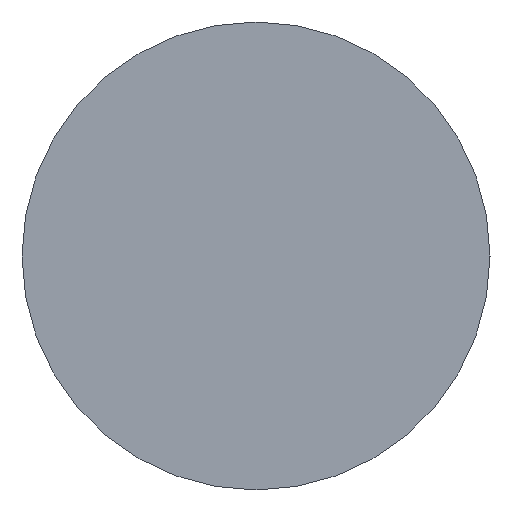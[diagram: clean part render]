
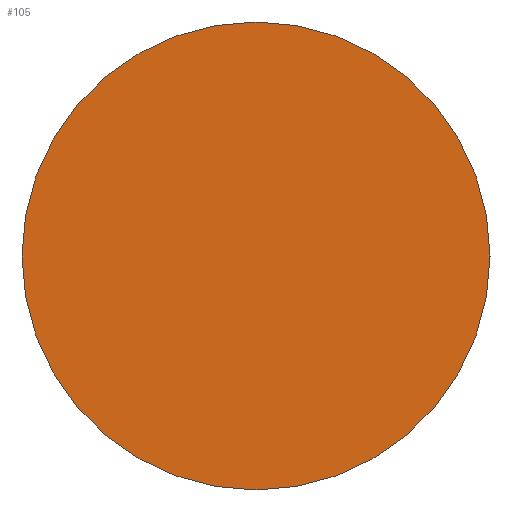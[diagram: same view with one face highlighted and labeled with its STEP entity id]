
A CAD part, left-side view. The second image highlights one B-rep face of the part: STEP entity #105.
In plain terms, the highlighted planar face has unit normal (-1, 0, 0).
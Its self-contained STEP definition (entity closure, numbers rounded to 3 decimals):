
#21 = EDGE_CURVE('',#22,#22,#24,.T.);
#22 = VERTEX_POINT('',#23);
#23 = CARTESIAN_POINT('',(-135.,0.,-4.));
#24 = SURFACE_CURVE('',#25,(#30,#42),.PCURVE_S1.);
#25 = CIRCLE('',#26,4.);
#26 = AXIS2_PLACEMENT_3D('',#27,#28,#29);
#27 = CARTESIAN_POINT('',(-135.,0.,0.));
#28 = DIRECTION('',(-1.,0.,0.));
#29 = DIRECTION('',(0.,0.,-1.));
#30 = PCURVE('',#31,#36);
#31 = CYLINDRICAL_SURFACE('',#32,4.);
#32 = AXIS2_PLACEMENT_3D('',#33,#34,#35);
#33 = CARTESIAN_POINT('',(-97.,0.,0.));
#34 = DIRECTION('',(-1.,0.,0.));
#35 = DIRECTION('',(0.,0.,-1.));
#36 = DEFINITIONAL_REPRESENTATION('',(#37),#41);
#37 = LINE('',#38,#39);
#38 = CARTESIAN_POINT('',(0.,38.));
#39 = VECTOR('',#40,1.);
#40 = DIRECTION('',(1.,0.));
#41 = ( GEOMETRIC_REPRESENTATION_CONTEXT(2) 
PARAMETRIC_REPRESENTATION_CONTEXT() REPRESENTATION_CONTEXT('2D SPACE',''
  ) );
#42 = PCURVE('',#43,#48);
#43 = PLANE('',#44);
#44 = AXIS2_PLACEMENT_3D('',#45,#46,#47);
#45 = CARTESIAN_POINT('',(-135.,0.,0.));
#46 = DIRECTION('',(-1.,0.,0.));
#47 = DIRECTION('',(0.,0.,-1.));
#48 = DEFINITIONAL_REPRESENTATION('',(#49),#53);
#49 = CIRCLE('',#50,4.);
#50 = AXIS2_PLACEMENT_2D('',#51,#52);
#51 = CARTESIAN_POINT('',(0.,0.));
#52 = DIRECTION('',(1.,0.));
#53 = ( GEOMETRIC_REPRESENTATION_CONTEXT(2) 
PARAMETRIC_REPRESENTATION_CONTEXT() REPRESENTATION_CONTEXT('2D SPACE',''
  ) );
#105 = ADVANCED_FACE('',(#106),#43,.T.);
#106 = FACE_BOUND('',#107,.T.);
#107 = EDGE_LOOP('',(#108));
#108 = ORIENTED_EDGE('',*,*,#21,.T.);
